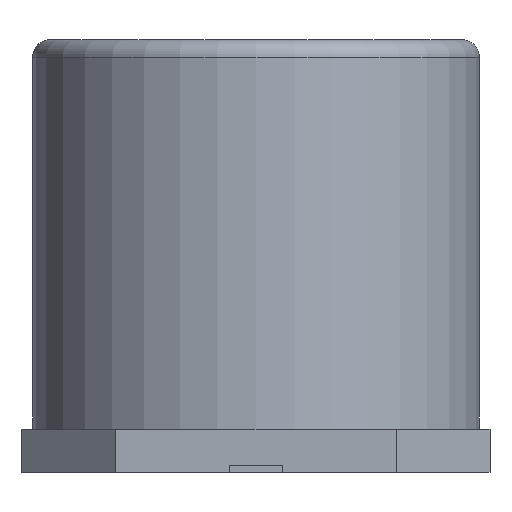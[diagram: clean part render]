
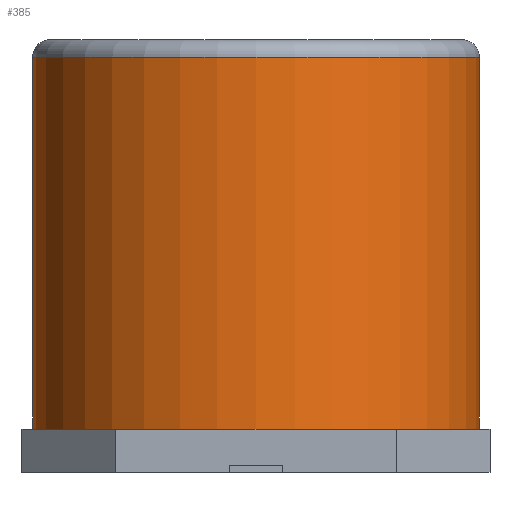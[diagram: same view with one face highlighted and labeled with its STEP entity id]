
A CAD part, front view. The second image highlights one B-rep face of the part: STEP entity #385.
In plain terms, the highlighted cylindrical face has radius 3.15 mm (diameter 6.3 mm), a full revolution.
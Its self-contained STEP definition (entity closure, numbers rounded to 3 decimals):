
#385 = ADVANCED_FACE('',(#386),#413,.T.);
#386 = FACE_BOUND('',#387,.F.);
#387 = EDGE_LOOP('',(#388,#398,#405,#406));
#388 = ORIENTED_EDGE('',*,*,#389,.T.);
#389 = EDGE_CURVE('',#390,#392,#394,.T.);
#390 = VERTEX_POINT('',#391);
#391 = CARTESIAN_POINT('',(3.15,0.,0.61));
#392 = VERTEX_POINT('',#393);
#393 = CARTESIAN_POINT('',(3.15,0.,5.85));
#394 = LINE('',#395,#396);
#395 = CARTESIAN_POINT('',(3.15,0.,0.61));
#396 = VECTOR('',#397,1.);
#397 = DIRECTION('',(0.,0.,1.));
#398 = ORIENTED_EDGE('',*,*,#399,.T.);
#399 = EDGE_CURVE('',#392,#392,#400,.T.);
#400 = CIRCLE('',#401,3.15);
#401 = AXIS2_PLACEMENT_3D('',#402,#403,#404);
#402 = CARTESIAN_POINT('',(0.,0.,5.85));
#403 = DIRECTION('',(0.,0.,1.));
#404 = DIRECTION('',(1.,0.,0.));
#405 = ORIENTED_EDGE('',*,*,#389,.F.);
#406 = ORIENTED_EDGE('',*,*,#407,.F.);
#407 = EDGE_CURVE('',#390,#390,#408,.T.);
#408 = CIRCLE('',#409,3.15);
#409 = AXIS2_PLACEMENT_3D('',#410,#411,#412);
#410 = CARTESIAN_POINT('',(0.,0.,0.61));
#411 = DIRECTION('',(0.,0.,1.));
#412 = DIRECTION('',(1.,0.,0.));
#413 = CYLINDRICAL_SURFACE('',#414,3.15);
#414 = AXIS2_PLACEMENT_3D('',#415,#416,#417);
#415 = CARTESIAN_POINT('',(0.,0.,0.61));
#416 = DIRECTION('',(-0.,-0.,-1.));
#417 = DIRECTION('',(1.,0.,0.));
